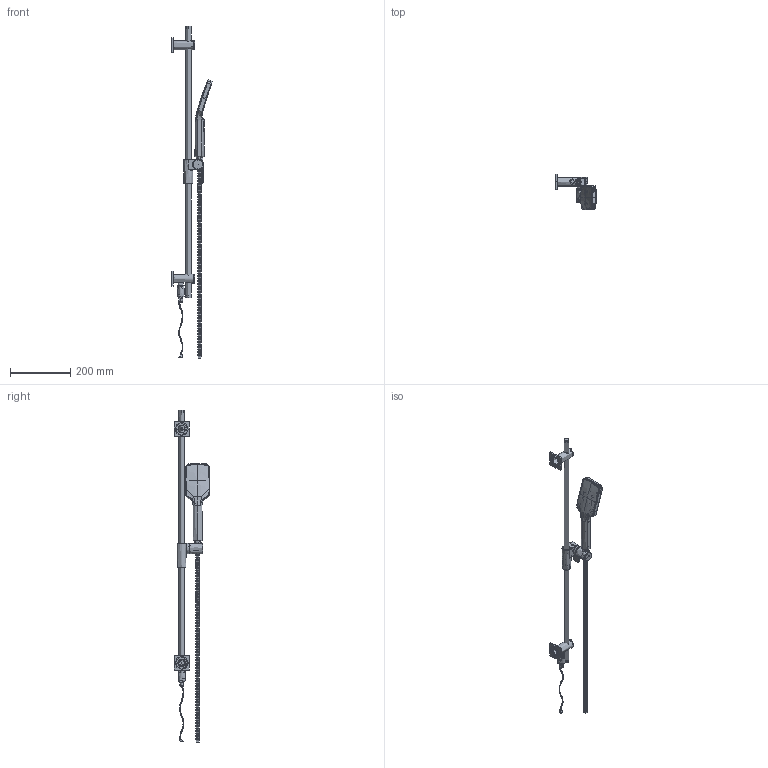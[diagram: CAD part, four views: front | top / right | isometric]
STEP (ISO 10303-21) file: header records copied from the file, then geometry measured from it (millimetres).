
FILE_DESCRIPTION(/* description */ (''),/* implementation_level */ '2;1');
FILE_NAME(/* name */ 'X:\Utilisateurs\Francois\4625 3D.stp',/* time_stamp */ '2017-12-08T10:05:04-05:00',/* author */ ('francoisJ'),/* organization */ (''),/* preprocessor_version */ 'ST-DEVELOPER v15.6',/* originating_system */ 'Autodesk Inventor 2015',/* authorisation */ '');
FILE_SCHEMA (('CONFIG_CONTROL_DESIGN'));
Length unit declared in the file: millimetre
Products named in the file (81): 034-000; 039-042; 225-115; 4907; 4801; 039-260; 039-040; 224-218; 4906; 4935; 039-041; 4925; 390-450; 024-201; 302-604; 2640; 140-230; 035-001; 4745; 7259-1; 7259-2; 7259-4; 7259-5; 302-127; 7259-8; 7259-9; 7259-10; HOSE (7007); 7259; 4910-1; 4910-2; 4910-3; 4910-4; 4910-5; 4910-6; 4910-7; 4910-8; 4910-9; 4910-10; 4910-11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
Assembly tree (106 placements, depth 5):
  4625
    4745
      4801
        034-000
        4907  x2
          039-042
          225-115
      4935
        039-260
        4906
          039-040
          224-218
      4925
        039-041
        4906
          039-040
          224-218
      390-450
      2640  x2
        024-201
        302-604
      140-230
      035-001
    7259
      7259-1
      7259-2
      7259-4
      7259-5  x2
      302-127
      7259-8
      7259-9
      7259-10
      HOSE (7007)
    4910
      4910-1
      4910-2
      4910-3
      4910-4
      4910-5
      4910-6
      4910-7
      4910-8  x3
      4910-9
      4910-10
      4910-11
      4910-12
      4910-13
      4910-14
      4910-15
      4910-16
      4910-17
      4910-18
    4365
      4365-1
      4365-2
      4365-3-5
        4365-5
        4365-3
      4365-4
      4365-7
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Bounding box: 133.91 x 118.17 x 1097.94 mm (x, y, z)
Volume: 354753.5 mm3; surface area: 551368.3 mm2
Topology: 99 solids, 100 shells, 8739 faces, 21808 edges, 13666 vertices
Faces by surface type: plane 3252, bspline 2397, cylinder 1996, cone 636, torus 387, sphere 71
Full cylindrical faces by diameter (mm): 1 x4, 1.3 x1, 1.5 x1, 1.6 x10, 1.8 x8, 1.97 x2, 2 x15, 2.2 x4, 2.3 x5, 2.325 x2, 2.5 x4, 2.6 x2, 2.65 x1, 2.661 x1, 3 x5, 3.2 x3, 3.242 x2, 3.3 x4, 3.45 x2, 3.5 x3, 3.8 x18, 4 x5, 4.4 x11, 4.689 x1, 5 x7, 5.5 x10, 5.785 x2, 6 x2, 6.3 x1, 6.5 x1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
Entity records: 472753 total; most frequent: CARTESIAN_POINT 300552, ORIENTED_EDGE 36934, DIRECTION 31634, EDGE_CURVE 18467, AXIS2_PLACEMENT_3D 11971, VERTEX_POINT 11970, EDGE_LOOP 9467, FACE_OUTER_BOUND 7822
